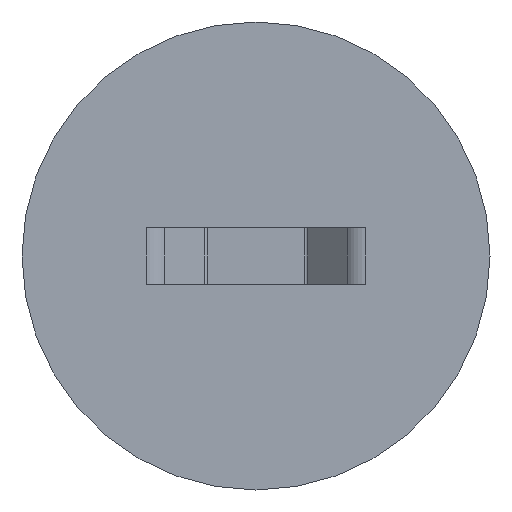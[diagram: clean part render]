
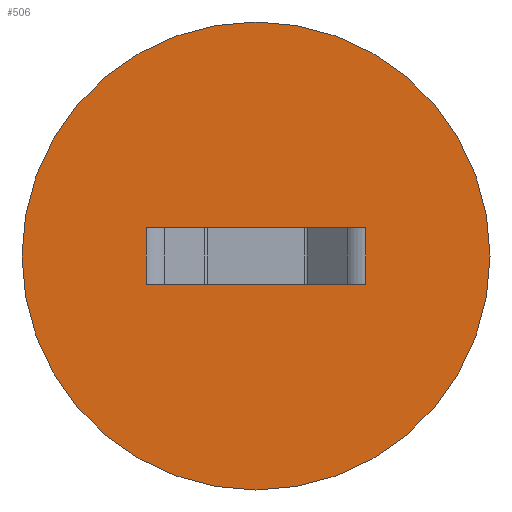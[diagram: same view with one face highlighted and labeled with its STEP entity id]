
A CAD part, front view. The second image highlights one B-rep face of the part: STEP entity #506.
In plain terms, the highlighted planar face has unit normal (0, -1, 0).
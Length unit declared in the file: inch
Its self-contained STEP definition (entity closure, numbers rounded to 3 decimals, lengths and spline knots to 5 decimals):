
#10 = ORIENTED_EDGE ( 'NONE', *, *, #424, .F. ) ;
#17 = VERTEX_POINT ( 'NONE', #649 ) ;
#42 = CARTESIAN_POINT ( 'NONE',  ( -0.29414, -0.06, 0. ) ) ;
#47 = CIRCLE ( 'NONE', #504, 0.62621 ) ;
#77 = CARTESIAN_POINT ( 'NONE',  ( -0.62621, -0.06, -0.075 ) ) ;
#99 = EDGE_CURVE ( 'NONE', #308, #229, #387, .T. ) ;
#114 = DIRECTION ( 'NONE',  ( 0., -1., 0. ) ) ;
#136 = DIRECTION ( 'NONE',  ( 0., -1., 0. ) ) ;
#152 = DIRECTION ( 'NONE',  ( 0., -1., 0. ) ) ;
#169 = CIRCLE ( 'NONE', #538, 0.62621 ) ;
#173 = EDGE_CURVE ( 'NONE', #229, #627, #534, .T. ) ;
#175 = VECTOR ( 'NONE', #530, 39.37008 ) ;
#176 = CARTESIAN_POINT ( 'NONE',  ( 0.29414, -0.06, 0. ) ) ;
#229 = VERTEX_POINT ( 'NONE', #176 ) ;
#236 = EDGE_CURVE ( 'NONE', #380, #249, #169, .T. ) ;
#248 = CARTESIAN_POINT ( 'NONE',  ( -0.29414, -0.06, -0.15 ) ) ;
#249 = VERTEX_POINT ( 'NONE', #356 ) ;
#254 = ORIENTED_EDGE ( 'NONE', *, *, #173, .F. ) ;
#260 = VECTOR ( 'NONE', #660, 39.37008 ) ;
#278 = ORIENTED_EDGE ( 'NONE', *, *, #798, .T. ) ;
#285 = CARTESIAN_POINT ( 'NONE',  ( -0.29414, -0.06, 0. ) ) ;
#307 = CARTESIAN_POINT ( 'NONE',  ( 0.29414, -0.06, -0.15 ) ) ;
#308 = VERTEX_POINT ( 'NONE', #307 ) ;
#342 = LINE ( 'NONE', #652, #571 ) ;
#356 = CARTESIAN_POINT ( 'NONE',  ( 0.62621, -0.06, -0.075 ) ) ;
#366 = LINE ( 'NONE', #248, #497 ) ;
#376 = DIRECTION ( 'NONE',  ( 1., 0., 0. ) ) ;
#380 = VERTEX_POINT ( 'NONE', #77 ) ;
#387 = LINE ( 'NONE', #403, #175 ) ;
#403 = CARTESIAN_POINT ( 'NONE',  ( 0.29414, -0.06, -0.15 ) ) ;
#415 = EDGE_CURVE ( 'NONE', #17, #627, #366, .T. ) ;
#424 = EDGE_CURVE ( 'NONE', #17, #308, #342, .T. ) ;
#445 = CARTESIAN_POINT ( 'NONE',  ( 0., -0.06, -0.075 ) ) ;
#468 = CARTESIAN_POINT ( 'NONE',  ( -0.625, -0.06, -0.15 ) ) ;
#473 = FACE_OUTER_BOUND ( 'NONE', #633, .T. ) ;
#497 = VECTOR ( 'NONE', #748, 39.37008 ) ;
#504 = AXIS2_PLACEMENT_3D ( 'NONE', #445, #136, #376 ) ;
#506 = ADVANCED_FACE ( 'NONE', ( #601, #473 ), #533, .T. ) ;
#530 = DIRECTION ( 'NONE',  ( 0., 0., 1. ) ) ;
#533 = PLANE ( 'NONE',  #707 ) ;
#534 = LINE ( 'NONE', #285, #260 ) ;
#536 = DIRECTION ( 'NONE',  ( 1., 0., 0. ) ) ;
#538 = AXIS2_PLACEMENT_3D ( 'NONE', #606, #114, #657 ) ;
#552 = ORIENTED_EDGE ( 'NONE', *, *, #236, .T. ) ;
#571 = VECTOR ( 'NONE', #536, 39.37008 ) ;
#589 = EDGE_LOOP ( 'NONE', ( #254, #700, #10, #759 ) ) ;
#601 = FACE_BOUND ( 'NONE', #589, .T. ) ;
#606 = CARTESIAN_POINT ( 'NONE',  ( 0., -0.06, -0.075 ) ) ;
#627 = VERTEX_POINT ( 'NONE', #42 ) ;
#633 = EDGE_LOOP ( 'NONE', ( #278, #552 ) ) ;
#649 = CARTESIAN_POINT ( 'NONE',  ( -0.29414, -0.06, -0.15 ) ) ;
#652 = CARTESIAN_POINT ( 'NONE',  ( -0.29414, -0.06, -0.15 ) ) ;
#657 = DIRECTION ( 'NONE',  ( 1., 0., 0. ) ) ;
#660 = DIRECTION ( 'NONE',  ( -1., 0., 0. ) ) ;
#700 = ORIENTED_EDGE ( 'NONE', *, *, #99, .F. ) ;
#707 = AXIS2_PLACEMENT_3D ( 'NONE', #468, #152, #724 ) ;
#724 = DIRECTION ( 'NONE',  ( 0., 0., -1. ) ) ;
#748 = DIRECTION ( 'NONE',  ( 0., 0., 1. ) ) ;
#759 = ORIENTED_EDGE ( 'NONE', *, *, #415, .T. ) ;
#798 = EDGE_CURVE ( 'NONE', #249, #380, #47, .T. ) ;
